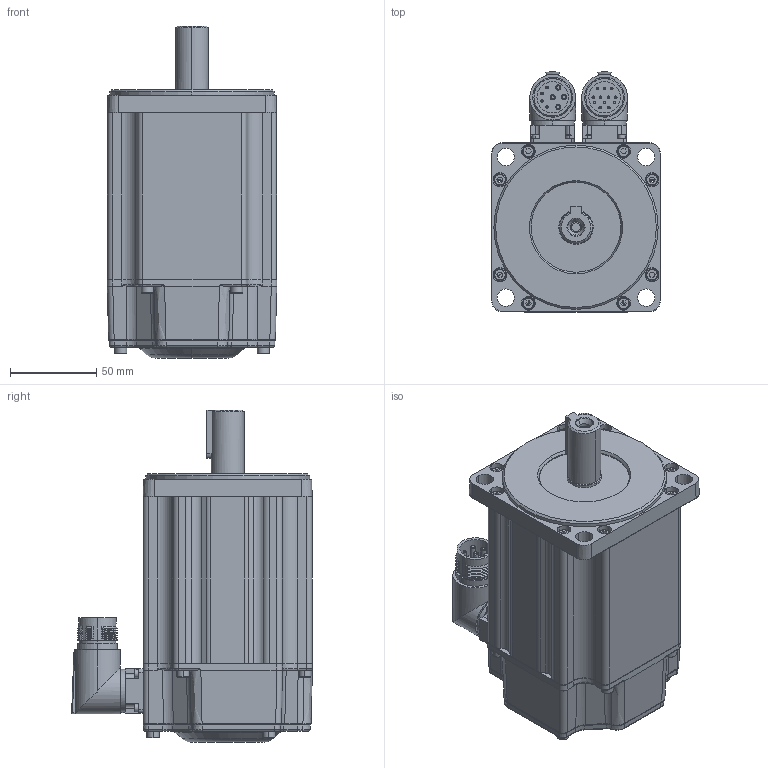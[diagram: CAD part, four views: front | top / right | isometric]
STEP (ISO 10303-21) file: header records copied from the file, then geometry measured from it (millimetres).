
FILE_DESCRIPTION((''),'2;1');
FILE_NAME('ZLS1152-XXX-XXX2-NKXX-D19E40','2024-07-27T10:54:39',('CAROL ZHENG'),(''),'CREO PARAMETRIC BY PTC INC, 2020414','CREO PARAMETRIC BY PTC INC, 2020414','');
FILE_SCHEMA(('CONFIG_CONTROL_DESIGN'));
Length unit declared in the file: millimetre
Products named in the file (1): ZLS1152-XXX-XXX2-NKXX-D19E40
Bounding box: 98.04 x 139.27 x 191.99 mm (x, y, z)
Surface area: 101868.4 mm2 (no closed solid volume)
Topology: 0 solids, 35 shells, 972 faces, 2608 edges, 1679 vertices
Faces by surface type: plane 389, cylinder 251, cone 176, torus 116, bspline 40
Entity records: 33998 total; most frequent: CARTESIAN_POINT 10267, DIRECTION 4929, ORIENTED_EDGE 4618, EDGE_CURVE 2598, AXIS2_PLACEMENT_3D 1854, VERTEX_POINT 1679, VECTOR 1221, LINE 1221
